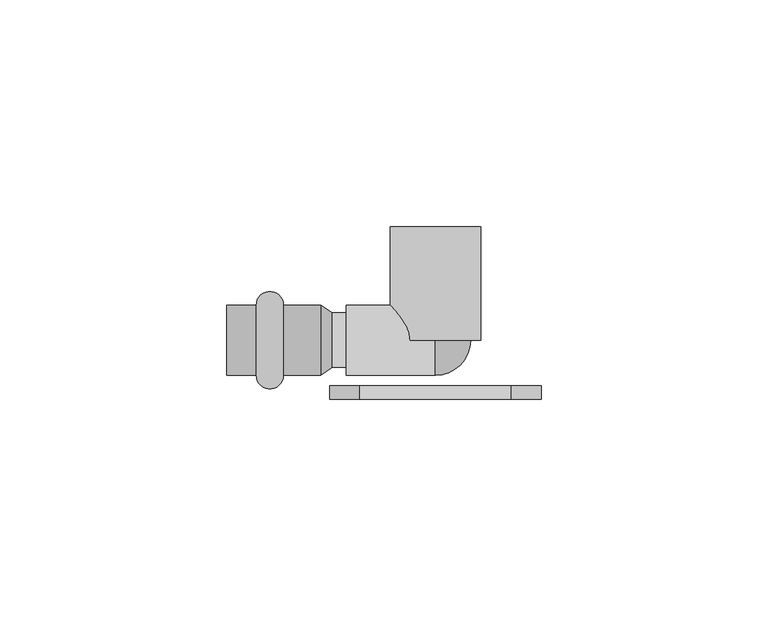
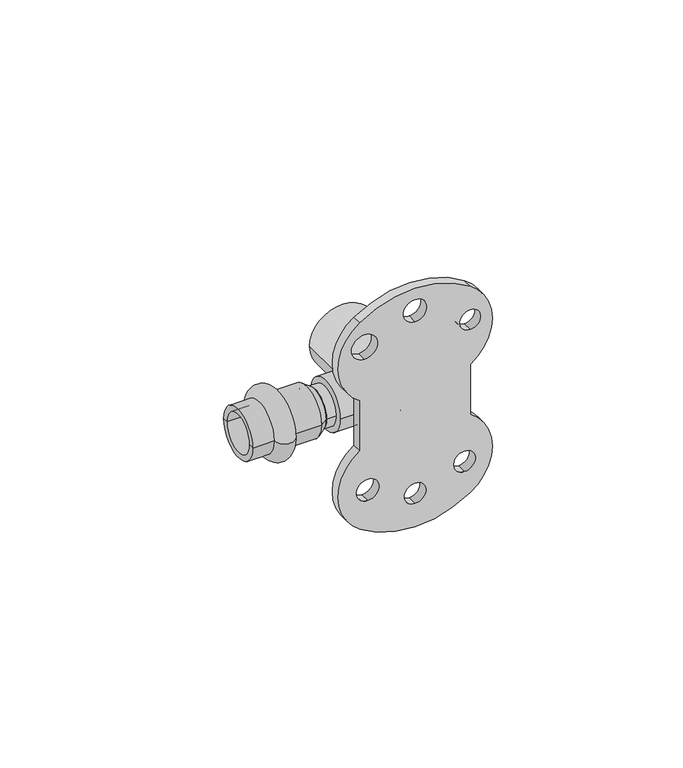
"""IFC4 building model written with IfcOpenShell, lengths in millimetres: pipe fitting geometry, VALTEC_VTi.954.I_Водорозетка : VTi.954.I."""

import ifcopenshell
import ifcopenshell.guid

model = None  # the IFC model being written
_history = None  # IfcOwnerHistory: only IFC2X3 demands one
_inside = {}  # id of a spatial element -> (the spatial element, [elements in it])
_under = {}  # id of a project, library or spatial element -> (it, [spatial elements below it])
_declared = {}  # id of a project -> (the project, [libraries it declares])
_typed = {}  # id of a type object -> (the type object, [elements of that type])
_made_of = {}  # id of a material, layer set ... -> (it, [elements and type objects made of it])


def new_model(schema):
    """Start an empty IFC model of exactly this schema.

    Asked for "IFC4X3", IfcOpenShell would pick the latest addendum, in which some entities
    have other attributes; the version numbers below select the first issue.
    IFC2X3 requires an IfcOwnerHistory on every rooted entity: one is made here for all.
    """
    global model, _history
    if schema == "IFC4X3":
        model = ifcopenshell.file(schema_version=(4, 3, 0, 0))
    else:
        model = ifcopenshell.file(schema=schema)
    _inside.clear()
    _under.clear()
    _declared.clear()
    _typed.clear()
    _made_of.clear()
    _history = None
    if model.schema == "IFC2X3":
        org = make("IfcOrganization", Name="unknown")
        user = make(
            "IfcPersonAndOrganization",
            ThePerson=make("IfcPerson", FamilyName="unknown"),
            TheOrganization=org,
        )
        app = make(
            "IfcApplication",
            ApplicationDeveloper=org,
            Version="unknown",
            ApplicationFullName="unknown",
            ApplicationIdentifier="unknown",
        )
        _history = make(
            "IfcOwnerHistory",
            OwningUser=user,
            OwningApplication=app,
            ChangeAction="ADDED",
            CreationDate=0,
        )
    return model


def make(cls, **values):
    """One entity of the class cls with the attributes given. An attribute that is None is left unset."""
    return model.create_entity(
        cls, **{name: value for name, value in values.items() if value is not None}
    )


def rooted(cls, **values):
    """An entity with a GlobalId (a new one), such as an element, a storey or a relation."""
    return make(cls, GlobalId=ifcopenshell.guid.new(), OwnerHistory=_history, **values)


def si_unit(unit_type, name, prefix=None):
    """IfcSIUnit, for example si_unit("LENGTHUNIT", "METRE", prefix="MILLI")."""
    return make("IfcSIUnit", UnitType=unit_type, Prefix=prefix, Name=name)


def assignment(units):
    """IfcUnitAssignment: the units of a project."""
    return None if units is None else make("IfcUnitAssignment", Units=units)


def point(xyz):
    """IfcCartesianPoint."""
    return None if xyz is None else make("IfcCartesianPoint", Coordinates=xyz)


def direction(xyz):
    """IfcDirection."""
    return None if xyz is None else make("IfcDirection", DirectionRatios=xyz)


def frame(location, z_axis=None, x_axis=None):
    """IfcAxis2Placement3D, a coordinate frame: its origin and axes. An axis left out is left unset."""
    return make(
        "IfcAxis2Placement3D",
        Location=point(location),
        Axis=direction(z_axis),
        RefDirection=direction(x_axis),
    )


def frame_2d(location, x_axis=None):
    """IfcAxis2Placement2D, a coordinate frame in the plane: its origin and x axis."""
    return make(
        "IfcAxis2Placement2D", Location=point(location), RefDirection=direction(x_axis)
    )


def origin():
    """The frame at (0, 0, 0) with its axes left unset."""
    return frame((0.0, 0.0, 0.0))


def origin_2d():
    """The frame at (0, 0) in the plane with its x axis left unset."""
    return frame_2d((0.0, 0.0))


def place(relative_to, where):
    """IfcLocalPlacement: puts the frame where relative to a parent placement (None: the world)."""
    return make(
        "IfcLocalPlacement", PlacementRelTo=relative_to, RelativePlacement=where
    )


def context(
    kind, dimensions, precision=None, world=None, true_north=None, identifier=None
):
    """IfcGeometricRepresentationContext, for example the 3D "Model" context."""
    return make(
        "IfcGeometricRepresentationContext",
        ContextIdentifier=identifier,
        ContextType=kind,
        CoordinateSpaceDimension=dimensions,
        Precision=precision,
        WorldCoordinateSystem=world,
        TrueNorth=true_north,
    )


def project(units=None, contexts=None):
    """IfcProject with its units and contexts."""
    return rooted(
        "IfcProject",
        Name="project",
        RepresentationContexts=contexts,
        UnitsInContext=assignment(units),
    )


def spatial(cls, under=None, at=None, **own):
    """A site, building, storey or space (cls), placed at a placement, below another one or the project."""
    s = rooted(cls, ObjectPlacement=at, **own)
    if under is not None:
        _under.setdefault(under.id(), (under, []))[1].append(s)
    return s


def polyline(points):
    """IfcPolyline through the points."""
    return make("IfcPolyline", Points=[point(p) for p in points])


def circle_curve(where, radius):
    """IfcCircle in the frame where."""
    return make("IfcCircle", Position=where, Radius=radius)


def ellipse_curve(where, semi_axis1, semi_axis2):
    """IfcEllipse in the frame where."""
    return make(
        "IfcEllipse", Position=where, SemiAxis1=semi_axis1, SemiAxis2=semi_axis2
    )


def trimmed(basis, trim1, trim2, sense, master):
    """IfcTrimmedCurve: the piece of a basis curve between two trims."""
    return make(
        "IfcTrimmedCurve",
        BasisCurve=basis,
        Trim1=trim1,
        Trim2=trim2,
        SenseAgreement=sense,
        MasterRepresentation=master,
    )


def segment(curve, same_sense, transition):
    """IfcCompositeCurveSegment."""
    return make(
        "IfcCompositeCurveSegment",
        Transition=transition,
        SameSense=same_sense,
        ParentCurve=curve,
    )


def composite_curve(segments, self_intersect=None):
    """IfcCompositeCurve: segments joined end to end."""
    return make("IfcCompositeCurve", Segments=segments, SelfIntersect=self_intersect)


def outline(outer, holes=None, kind="AREA"):
    """IfcArbitraryClosedProfileDef: a profile drawn as a closed curve; with holes, ...WithVoids."""
    if holes is None:
        return make("IfcArbitraryClosedProfileDef", ProfileType=kind, OuterCurve=outer)
    return make(
        "IfcArbitraryProfileDefWithVoids",
        ProfileType=kind,
        OuterCurve=outer,
        InnerCurves=holes,
    )


def extrude(swept, where, along, depth):
    """IfcExtrudedAreaSolid: the profile swept, set in the frame where, extruded along a direction by depth."""
    return make(
        "IfcExtrudedAreaSolid",
        SweptArea=swept,
        Position=where,
        ExtrudedDirection=direction(along),
        Depth=depth,
    )


def shape(context_of_items, identifier, shape_type, items):
    """IfcShapeRepresentation: the items that make up one representation, for example the "Body"."""
    return make(
        "IfcShapeRepresentation",
        ContextOfItems=context_of_items,
        RepresentationIdentifier=identifier,
        RepresentationType=shape_type,
        Items=items,
    )


def source(mapping_origin, context_of_items, identifier, shape_type, items):
    """IfcRepresentationMap: a shape defined once, which mapped items show again and again."""
    return make(
        "IfcRepresentationMap",
        MappingOrigin=mapping_origin,
        MappedRepresentation=shape(context_of_items, identifier, shape_type, items),
    )


def transform(
    local_origin,
    x_axis=None,
    y_axis=None,
    z_axis=None,
    scale=None,
    scale2=None,
    scale3=None,
    uniform=True,
):
    """IfcCartesianTransformationOperator3D, or its non-uniform kind. x_axis, y_axis, z_axis: its Axis1, 2, 3."""
    if uniform:
        return make(
            "IfcCartesianTransformationOperator3D",
            Axis1=direction(x_axis),
            Axis2=direction(y_axis),
            LocalOrigin=point(local_origin),
            Scale=scale,
            Axis3=direction(z_axis),
        )
    return make(
        "IfcCartesianTransformationOperator3DnonUniform",
        Axis1=direction(x_axis),
        Axis2=direction(y_axis),
        LocalOrigin=point(local_origin),
        Scale=scale,
        Axis3=direction(z_axis),
        Scale2=scale2,
        Scale3=scale3,
    )


def mapped(mapping_source, mapping_target):
    """IfcMappedItem: shows the shape of a source again, moved by a transform."""
    return make(
        "IfcMappedItem", MappingSource=mapping_source, MappingTarget=mapping_target
    )


def made_of(thing, what):
    """Note that an element or type object is made of a material, layer set ...; save() writes the relation."""
    if what is not None:
        _made_of.setdefault(what.id(), (what, []))[1].append(thing)
    return thing


def element(
    cls,
    number,
    at=None,
    inside=None,
    cuts=None,
    type_object=None,
    material=None,
    context=None,
    identifier="Body",
    shape_type=None,
    held_by="IfcProductDefinitionShape",
    body=None,
    shapes=None,
    **own,
):
    """One element of the class cls, such as IfcWall. Its Tag is "e" and its number.

    at: its placement. inside: the storey or other place that contains it. cuts: it is an
    opening in that element (IfcRelVoidsElement). A single representation is given by context,
    identifier, shape_type and body (its items); several are given by shapes. held_by: the class
    of the entity that holds the representations. save() writes the other relations.
    """
    e = rooted(cls, Tag="e%d" % number, ObjectPlacement=at, **own)
    if body is not None:
        shapes = [shape(context, identifier, shape_type, body)]
    if shapes is not None:
        e.Representation = make(held_by, Representations=shapes)
    if inside is not None:
        _inside.setdefault(inside.id(), (inside, []))[1].append(e)
    if cuts is not None:
        rooted(
            "IfcRelVoidsElement", RelatingBuildingElement=cuts, RelatedOpeningElement=e
        )
    if type_object is not None:
        _typed.setdefault(type_object.id(), (type_object, []))[1].append(e)
    return made_of(e, material)


def aggregate(whole, parts):
    """IfcRelAggregates: a whole, such as a stair, and the parts it consists of."""
    return rooted("IfcRelAggregates", RelatingObject=whole, RelatedObjects=parts)


def save(model, path):
    """Write the relations noted so far, then the file.

    IfcRelAggregates (storeys below a building ...), IfcRelContainedInSpatialStructure (elements
    in a storey), IfcRelDefinesByType, IfcRelAssociatesMaterial and IfcRelDeclares: one each for
    every whole, place, type object, material and project.
    """
    for whole, parts in _under.values():
        aggregate(whole, parts)
    for where, things in _inside.values():
        rooted(
            "IfcRelContainedInSpatialStructure",
            RelatedElements=things,
            RelatingStructure=where,
        )
    for kind, things in _typed.values():
        rooted("IfcRelDefinesByType", RelatedObjects=things, RelatingType=kind)
    for what, things in _made_of.values():
        rooted("IfcRelAssociatesMaterial", RelatedObjects=things, RelatingMaterial=what)
    for by, libraries in _declared.values():
        rooted("IfcRelDeclares", RelatingContext=by, RelatedDefinitions=libraries)
    model.write(path)


def plane_surface(at):
    """IfcPlane: the flat surface through the origin of the frame at, square to its z axis."""
    return make("IfcPlane", Position=at)


def cylinder_surface(at, radius):
    """IfcCylindricalSurface: all points at the distance radius from the z axis of the frame at."""
    return make("IfcCylindricalSurface", Position=at, Radius=radius)


def revolved_surface(curve, axis_point, axis_direction):
    """IfcSurfaceOfRevolution: the curve turned about the line through axis_point along axis_direction."""
    return make(
        "IfcSurfaceOfRevolution",
        SweptCurve=make("IfcArbitraryOpenProfileDef", ProfileType="CURVE", Curve=curve),
        AxisPosition=make("IfcAxis1Placement", Location=point(axis_point), Axis=direction(axis_direction)),
    )


def advanced_brep(points, edges, surfaces, faces):
    """IfcAdvancedBrep: a solid bounded by faces that lie on surfaces and meet in shared edges.

    An edge is (start, end): straight between two places in points (the first is 0);
    or (start, end, curve); or (start, end, curve, False) where it runs against its curve.
    A face is (place in surfaces, loops), or (place, loops, False) where it looks against
    its surface's normal. A loop lists edges by number (the first is 1), with a minus sign
    where the edge is run from its end to its start. The first loop is the outer one.
    """
    corners = [point(p) for p in points]
    vertices = [make("IfcVertexPoint", VertexGeometry=c) for c in corners]
    made = []
    for start, end, *more in edges:
        made.append(
            make(
                "IfcEdgeCurve",
                EdgeStart=vertices[start],
                EdgeEnd=vertices[end],
                EdgeGeometry=more[0] if more else make("IfcPolyline", Points=[corners[start], corners[end]]),
                SameSense=more[1] if len(more) > 1 else True,
            )
        )
    hull = []
    for where, loops, *sense in faces:
        bounds = []
        for j, loop in enumerate(loops):
            ring = [make("IfcOrientedEdge", EdgeElement=made[abs(k) - 1], Orientation=k > 0) for k in loop]
            bounds.append(
                make(
                    "IfcFaceOuterBound" if j == 0 else "IfcFaceBound",
                    Bound=make("IfcEdgeLoop", EdgeList=ring),
                    Orientation=True,
                )
            )
        hull.append(make("IfcAdvancedFace", Bounds=bounds, FaceSurface=surfaces[where], SameSense=sense[0] if sense else True))
    return make("IfcAdvancedBrep", Outer=make("IfcClosedShell", CfsFaces=hull))


def pipe_fitting_d16bf814(model_context):
    return source(origin(), model_context, "Body", "SolidModel", [
        advanced_brep(
        [(-39.5, -7.75, 0.0), (-39.5, 7.75, 0.0), (-33.5, 7.75, 0.0), (-33.5, -7.75, 0.0), (-46.0, -7.75, 0.0), (-46.0, 7.75, 0.0), (-46.0, -6.0, 0.0), (-46.0, 6.0, 0.0), (-25.3, -6.0, 0.0), (-25.3, 6.0, 0.0), (-25.3, -7.75, 0.0), (-25.3, 7.75, 0.0)],
        [
            (0, 1, circle_curve(frame((-39.5, 0.0, 0.0), z_axis=(1.0, 0.0, 0.0), x_axis=(0.0, 1.0, 0.0)), 7.75)),
            (1, 2, circle_curve(frame((-36.5, 7.75, 0.0), z_axis=(0.0, 0.0, -1.0), x_axis=(1.0, 0.0, 0.0)), 3.0)),
            (2, 3, circle_curve(frame((-33.5, 0.0, 0.0), z_axis=(-1.0, 0.0, 0.0), x_axis=(0.0, 1.0, 0.0)), 7.75)),
            (3, 0, circle_curve(frame((-36.5, -7.75, 0.0), z_axis=(0.0, 0.0, -1.0), x_axis=(1.0, 0.0, 0.0)), 3.0)),
            (1, 0, circle_curve(frame((-39.5, 0.0, 0.0), z_axis=(1.0, 0.0, 0.0), x_axis=(0.0, 1.0, 0.0)), 7.75)),
            (3, 2, circle_curve(frame((-33.5, 0.0, 0.0), z_axis=(-1.0, 0.0, 0.0), x_axis=(0.0, 1.0, 0.0)), 7.75)),
            (4, 5, circle_curve(frame((-46.0, 0.0, 0.0), z_axis=(1.0, 0.0, 0.0), x_axis=(0.0, 1.0, 0.0)), 7.75)),
            (5, 1),
            (0, 4),
            (5, 4, circle_curve(frame((-46.0, 0.0, 0.0), z_axis=(1.0, 0.0, 0.0), x_axis=(0.0, 1.0, 0.0)), 7.75)),
            (6, 7, circle_curve(frame((-46.0, 0.0, 0.0), z_axis=(1.0, 0.0, 0.0), x_axis=(0.0, 1.0, 0.0)), 6.0)),
            (7, 5),
            (4, 6),
            (7, 6, circle_curve(frame((-46.0, 0.0, 0.0), z_axis=(1.0, 0.0, 0.0), x_axis=(0.0, 1.0, 0.0)), 6.0)),
            (8, 9, circle_curve(frame((-25.3, 0.0, 0.0), z_axis=(1.0, 0.0, 0.0), x_axis=(0.0, 1.0, 0.0)), 6.0)),
            (9, 7),
            (6, 8),
            (9, 8, circle_curve(frame((-25.3, 0.0, 0.0), z_axis=(1.0, 0.0, 0.0), x_axis=(0.0, 1.0, 0.0)), 6.0)),
            (10, 11, circle_curve(frame((-25.3, 0.0, 0.0), z_axis=(1.0, 0.0, 0.0), x_axis=(0.0, 1.0, 0.0)), 7.75)),
            (11, 9),
            (8, 10),
            (11, 10, circle_curve(frame((-25.3, 0.0, 0.0), z_axis=(1.0, 0.0, 0.0), x_axis=(0.0, 1.0, 0.0)), 7.75)),
            (2, 11),
            (10, 3),
        ],
        [
            revolved_surface(trimmed(ellipse_curve(frame((-36.5, 7.75, 0.0), z_axis=(0.0, 0.0, 1.0), x_axis=(1.0, 0.0, 0.0)), 3.0, 3.0), [point((-33.5, 7.75, 0.0))], [point((-39.5, 7.75, 0.0))], True, "CARTESIAN"), (-49.5364426, 0.0, 0.0), (-1.0, 0.0, 0.0)),
            cylinder_surface(frame((-49.5364426, 0.0, 0.0), z_axis=(-1.0, 0.0, 0.0), x_axis=(0.0, 1.0, 0.0)), 7.75),
            plane_surface(frame((-46.0, 0.0, 0.0), z_axis=(-1.0, 0.0, 0.0), x_axis=(0.0, 1.0, 0.0))),
            revolved_surface(polyline([(-46.0, 6.0, 0.0), (-25.3, 6.0, 0.0)]), (-49.5364426, 0.0, 0.0), (-1.0, 0.0, 0.0)),
            plane_surface(frame((-25.3, 0.0, 0.0), z_axis=(1.0, 0.0, 0.0), x_axis=(0.0, 1.0, 0.0))),
        ],
        [
            (0, [[1, 2, 3, 4]]),
            (0, [[5, -4, 6, -2]]),
            (1, [[7, 8, -1, 9]]),
            (1, [[10, -9, -5, -8]]),
            (2, [[11, 12, -7, 13]]),
            (2, [[14, -13, -10, -12]]),
            (3, [[15, 16, -11, 17]]),
            (3, [[18, -17, -14, -16]]),
            (4, [[19, 20, -15, 21]]),
            (4, [[22, -21, -18, -20]]),
            (1, [[-3, 23, -19, 24]]),
            (1, [[-6, -24, -22, -23]]),
        ],
    ),
        extrude(outline(composite_curve([segment(polyline([(-7.9880122, 16.7174213), (7.9880122, 16.7174213)]), True, "CONTINUOUS"), segment(trimmed(circle_curve(frame_2d((20.4880122, 8.2246929)), 15.1121288), [point((7.9880122, 16.7174213))], [point((32.9880122, 16.7174213))], False, "CARTESIAN"), True, "CONTINUOUS"), segment(trimmed(circle_curve(frame_2d((8.3825197, 0.0)), 29.7473098), [point((32.9880122, 16.7174213))], [point((32.9880122, -16.7174213))], False, "CARTESIAN"), True, "CONTINUOUS"), segment(trimmed(circle_curve(frame_2d((20.4880122, -8.2246929)), 15.1121288), [point((32.9880122, -16.7174213))], [point((7.9880122, -16.7174213))], False, "CARTESIAN"), True, "CONTINUOUS"), segment(polyline([(7.9880122, -16.7174213), (-7.9880122, -16.7174213)]), True, "CONTINUOUS"), segment(trimmed(circle_curve(frame_2d((-20.4880122, -8.2246929)), 15.1121288), [point((-7.9880122, -16.7174213))], [point((-32.9880122, -16.7174213))], False, "CARTESIAN"), True, "CONTINUOUS"), segment(trimmed(circle_curve(frame_2d((-8.3825197, 0.0)), 29.7473098), [point((-32.9880122, -16.7174213))], [point((-32.9880122, 16.7174213))], False, "CARTESIAN"), True, "CONTINUOUS"), segment(trimmed(circle_curve(frame_2d((-20.4880122, 8.2246929)), 15.1121288), [point((-32.9880122, 16.7174213))], [point((-7.9880122, 16.7174213))], False, "CARTESIAN"), True, "CONTINUOUS")], self_intersect=False), holes=[composite_curve([segment(trimmed(circle_curve(frame_2d((-22.4078456, 14.9572115)), 3.2586084), [point((-19.1492372, 14.9572115))], [point((-25.6664541, 14.9572115))], True, "CARTESIAN"), True, "CONTINUOUS"), segment(trimmed(circle_curve(frame_2d((-22.4078456, 14.9572115)), 3.2586084), [point((-25.6664541, 14.9572115))], [point((-19.1492372, 14.9572115))], True, "CARTESIAN"), True, "CONTINUOUS")], self_intersect=False), composite_curve([segment(trimmed(circle_curve(frame_2d((-27.3898654, 0.0)), 3.2507226), [point((-24.1391428, 0.0))], [point((-30.640588, 0.0))], True, "CARTESIAN"), True, "CONTINUOUS"), segment(trimmed(circle_curve(frame_2d((-27.3898654, 0.0)), 3.2507226), [point((-30.640588, 0.0))], [point((-24.1391428, 0.0))], True, "CARTESIAN"), True, "CONTINUOUS")], self_intersect=False), composite_curve([segment(trimmed(circle_curve(frame_2d((-21.2868912, -14.3121545)), 3.401561), [point((-17.8853302, -14.3121545))], [point((-24.6884522, -14.3121545))], True, "CARTESIAN"), True, "CONTINUOUS"), segment(trimmed(circle_curve(frame_2d((-21.2868912, -14.3121545)), 3.401561), [point((-24.6884522, -14.3121545))], [point((-17.8853302, -14.3121545))], True, "CARTESIAN"), True, "CONTINUOUS")], self_intersect=False), composite_curve([segment(trimmed(circle_curve(frame_2d((22.3057816, 16.7174213)), 3.1302653), [point((25.4360468, 16.7174213))], [point((19.1755163, 16.7174213))], True, "CARTESIAN"), True, "CONTINUOUS"), segment(trimmed(circle_curve(frame_2d((22.3057816, 16.7174213)), 3.1302653), [point((19.1755163, 16.7174213))], [point((25.4360468, 16.7174213))], True, "CARTESIAN"), True, "CONTINUOUS")], self_intersect=False), composite_curve([segment(trimmed(circle_curve(frame_2d((31.0243161, 0.0)), 3.5243161), [point((34.5486322, 0.0))], [point((27.5, 0.0))], True, "CARTESIAN"), True, "CONTINUOUS"), segment(trimmed(circle_curve(frame_2d((31.0243161, 0.0)), 3.5243161), [point((27.5, 0.0))], [point((34.5486322, 0.0))], True, "CARTESIAN"), True, "CONTINUOUS")], self_intersect=False), composite_curve([segment(trimmed(circle_curve(frame_2d((24.75, -15.3085584)), 3.9300859), [point((28.6800859, -15.3085584))], [point((20.8199141, -15.3085584))], True, "CARTESIAN"), True, "CONTINUOUS"), segment(trimmed(circle_curve(frame_2d((24.75, -15.3085584)), 3.9300859), [point((20.8199141, -15.3085584))], [point((28.6800859, -15.3085584))], True, "CARTESIAN"), True, "CONTINUOUS")], self_intersect=False)]), frame((0.0, -13.0, 0.0), z_axis=(0.0, 1.0, 0.0), x_axis=(0.0, 0.0, 1.0)), (0.0, 0.0, 1.0), 3.0),
        advanced_brep(
        [(0.0, 0.0, -7.75), (0.0, 0.0, 7.75)],
        [
            (0, 1, circle_curve(frame((0.0, 0.0, 0.0), z_axis=(-1.0, 0.0, 0.0), x_axis=(0.0, -1.0, 0.0)), 7.75)),
            (1, 0),
            (1, 0, circle_curve(frame((0.0, 0.0, 0.0), z_axis=(0.0, 1.0, 0.0), x_axis=(1.0, 0.0, 0.0)), 7.75)),
        ],
        [
            plane_surface(frame((0.0, 0.0, 1.732782), z_axis=(-1.0, 0.0, 0.0), x_axis=(0.0, -1.0, 0.0))),
            plane_surface(frame((0.0, 0.0, 1.732782), z_axis=(0.0, 1.0, 0.0), x_axis=(1.0, 0.0, 0.0))),
            revolved_surface(trimmed(ellipse_curve(frame((0.0, 0.0, 0.0), z_axis=(-1.0, 0.0, 0.0), x_axis=(0.0, -1.0, 0.0)), 7.75, 7.75), [point((0.0, 0.0, -7.75))], [point((0.0, 0.0, 7.75))], True, "CARTESIAN"), (0.0, 0.0, 1.732782), (0.0, 0.0, 1.0)),
        ],
        [
            (0, [[1, 2]]),
            (1, [[3, -2]]),
            (2, [[-1, -3]]),
        ],
    ),
        extrude(outline(composite_curve([segment(trimmed(circle_curve(origin_2d(), 7.75), [point((-7.75, 0.0))], [point((7.75, 0.0))], False, "CARTESIAN"), True, "CONTINUOUS"), segment(trimmed(circle_curve(origin_2d(), 7.75), [point((7.75, 0.0))], [point((-7.75, 0.0))], False, "CARTESIAN"), True, "CONTINUOUS")], self_intersect=False)), frame((-19.6390217, 0.0, 0.0), z_axis=(1.0, 0.0, 0.0), x_axis=(0.0, 1.0, 0.0)), (0.0, 0.0, 1.0), 19.6390217),
        extrude(outline(composite_curve([segment(trimmed(circle_curve(origin_2d(), 10.0), [point((0.0, -10.0))], [point((0.0, 10.0))], False, "CARTESIAN"), True, "CONTINUOUS"), segment(trimmed(circle_curve(origin_2d(), 10.0), [point((0.0, 10.0))], [point((0.0, -10.0))], False, "CARTESIAN"), True, "CONTINUOUS")], self_intersect=False), holes=[composite_curve([segment(trimmed(circle_curve(origin_2d(), 7.5), [point((0.0, -7.5))], [point((0.0, 7.5))], True, "CARTESIAN"), True, "CONTINUOUS"), segment(trimmed(circle_curve(origin_2d(), 7.5), [point((0.0, 7.5))], [point((0.0, -7.5))], True, "CARTESIAN"), True, "CONTINUOUS")], self_intersect=False)]), frame((0.0, 0.0, 0.0), z_axis=(0.0, 1.0, 0.0), x_axis=(0.0, 0.0, 1.0)), (0.0, 0.0, 1.0), 25.0),
        extrude(outline(composite_curve([segment(trimmed(circle_curve(origin_2d(), 6.0), [point((-6.0, 0.0))], [point((6.0, 0.0))], False, "CARTESIAN"), True, "CONTINUOUS"), segment(trimmed(circle_curve(origin_2d(), 6.0), [point((6.0, 0.0))], [point((-6.0, 0.0))], False, "CARTESIAN"), True, "CONTINUOUS")], self_intersect=False)), frame((-22.77, 0.0, 0.0), z_axis=(1.0, 0.0, 0.0), x_axis=(0.0, 1.0, 0.0)), (0.0, 0.0, 1.0), 3.1309783),
        advanced_brep(
        [(-25.3, -7.75, 0.0), (-25.3, 7.75, 0.0), (-22.77, -6.0, 0.0), (-22.77, 6.0, 0.0)],
        [
            (0, 1, circle_curve(frame((-25.3, 0.0, 0.0), z_axis=(-1.0, 0.0, 0.0), x_axis=(0.0, -1.0, 0.0)), 7.75)),
            (1, 0, circle_curve(frame((-25.3, 0.0, 0.0), z_axis=(-1.0, 0.0, 0.0), x_axis=(0.0, 1.0, 0.0)), 7.75)),
            (2, 3, circle_curve(frame((-22.77, 0.0, 0.0), z_axis=(1.0, 0.0, 0.0), x_axis=(0.0, 1.0, 0.0)), 6.0)),
            (3, 2, circle_curve(frame((-22.77, 0.0, 0.0), z_axis=(1.0, 0.0, 0.0), x_axis=(0.0, -1.0, 0.0)), 6.0)),
            (2, 0),
            (1, 3),
        ],
        [
            plane_surface(frame((-25.3, 0.0, 0.0), z_axis=(-1.0, 0.0, 0.0), x_axis=(0.0, 0.0, -1.0))),
            plane_surface(frame((-22.77, 0.0, 0.0), z_axis=(1.0, 0.0, 0.0), x_axis=(0.0, 0.0, -1.0))),
            revolved_surface(polyline([(-22.77, -5.99999999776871, 0.0), (-25.3, -7.75, 0.0)]), (-14.0957143, 0.0, 0.0), (-1.0, 0.0, 0.0)),
            revolved_surface(polyline([(-22.77, 5.99999999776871, 0.0), (-25.3, 7.75, 0.0)]), (-14.0957143, 0.0, 0.0), (-1.0, 0.0, 0.0)),
        ],
        [
            (0, [[1, 2]]),
            (1, [[3, 4]]),
            (2, [[-3, 5, -2, 6]]),
            (3, [[-4, -6, -1, -5]]),
        ],
    ),
    ])


if __name__ == "__main__":
    model = new_model("IFC4")
    model_context = context("Model", 3, world=origin())
    ifc_project = project(units=[si_unit("LENGTHUNIT", "METRE", prefix="MILLI")], contexts=[model_context])
    site = spatial("IfcSite", under=ifc_project)
    building = spatial("IfcBuilding", under=site)
    placement = place(None, origin())
    pipe_fitting_shape = pipe_fitting_d16bf814(model_context)
    element("IfcPipeFitting", 1, ObjectType="VALTEC_VTi.954.I_Водорозетка : VTi.954.I", at=placement, inside=building, context=model_context, shape_type="MappedRepresentation", body=[
        mapped(pipe_fitting_shape, transform((0.0, 0.0, 0.0), x_axis=(1.0, 0.0, 0.0), y_axis=(0.0, 1.0, 0.0), z_axis=(0.0, 0.0, 1.0))),
    ])
    save(model, "model.ifc")
